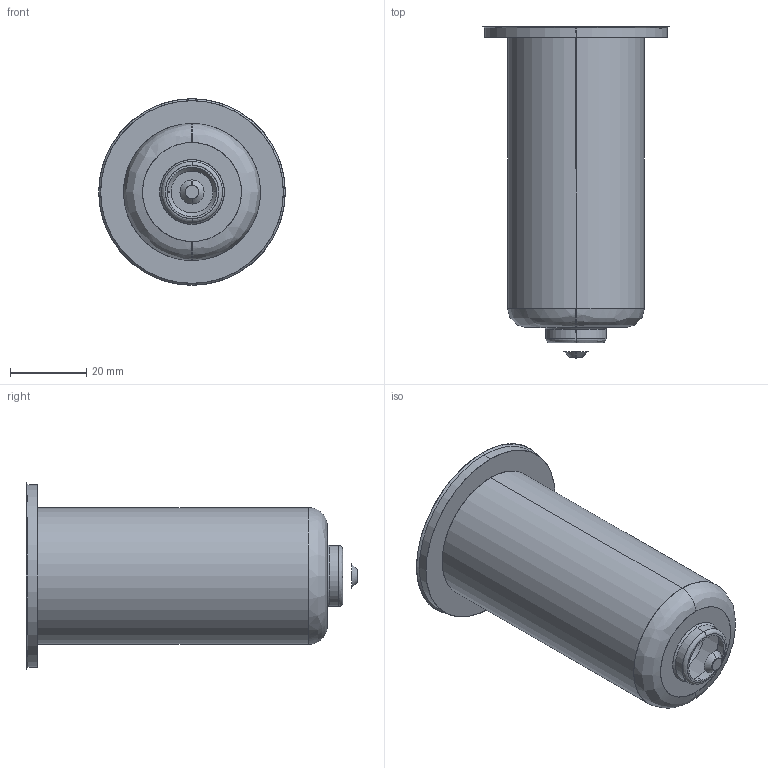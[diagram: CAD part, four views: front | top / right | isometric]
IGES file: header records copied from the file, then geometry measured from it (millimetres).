
Start section: SolidWorks IGES file using analytic representation for surfaces
Global section: file name: C:\Documents and Settings\ws-20\Desktop\TEM\Sede UGEP5002-M-A C-84 L-104 Ød-3.5.IGS; native system: SolidWorks 2012; preprocessor: SolidWorks 2012; author: ws-20; date: 120426.141833; units: millimetre
Bounding box: 49 x 87.21 x 49 mm (x, y, z)
Surface area: 12798 mm2 (no closed solid volume)
Topology: 0 solids, 0 shells, 25 faces, 436 edges, 436 vertices
Faces by surface type: revolution 16, bspline 9
